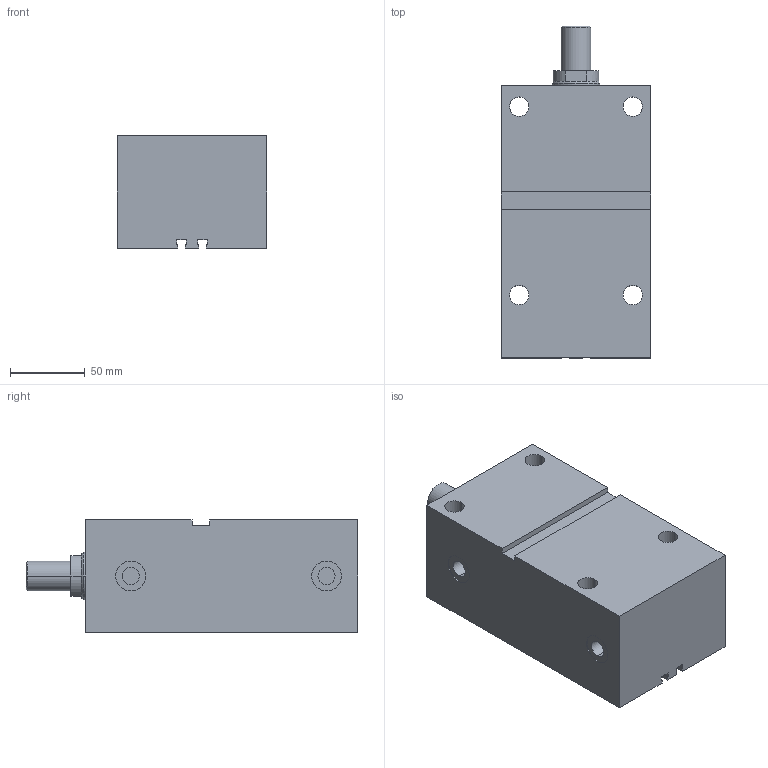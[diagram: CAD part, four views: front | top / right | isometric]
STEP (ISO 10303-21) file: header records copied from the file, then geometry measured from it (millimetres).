
FILE_DESCRIPTION (( 'STEP AP203' ), '1' );
FILE_NAME ('GERMA_Blockzylinder_701-050-100-A.STEP', '2016-07-23T13:13:21', ( '' ), ( '' ), 'SwSTEP 2.0', 'SolidWorks 2015', '' );
FILE_SCHEMA (( 'CONFIG_CONTROL_DESIGN' ));
Length unit declared in the file: millimetre
Products named in the file (3): GH-700-050_GH-701-050-100; Kolben_MT 70x-050_Kolben_MT DU.50-Hub100-AG; GERMA_Blockzylinder_701-050-100-A
Assembly tree (2 placements, depth 2):
  GERMA_Blockzylinder_701-050-100-A
    GH-700-050_GH-701-050-100
    Kolben_MT 70x-050_Kolben_MT DU.50-Hub100-AG
Bounding box: 100 x 222 x 75 mm (x, y, z)
Volume: 1205018.7 mm3; surface area: 148769.5 mm2
Topology: 2 solids, 2 shells, 92 faces, 216 edges, 137 vertices
Faces by surface type: plane 43, cylinder 37, cone 12
Entity records: 2938 total; most frequent: DIRECTION 491, CARTESIAN_POINT 446, ORIENTED_EDGE 424, EDGE_CURVE 212, AXIS2_PLACEMENT_3D 182, VERTEX_POINT 137, VECTOR 127, LINE 127
